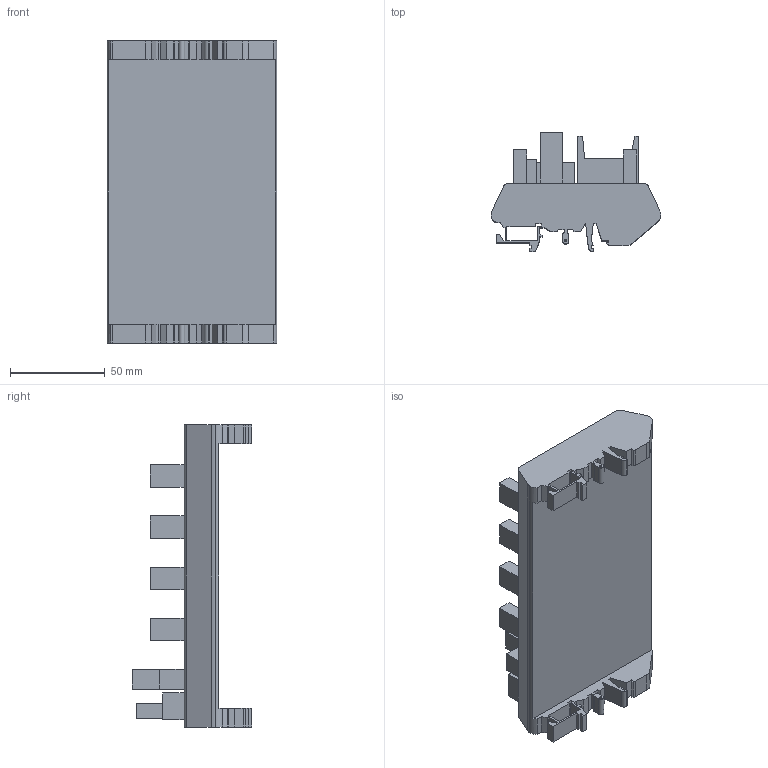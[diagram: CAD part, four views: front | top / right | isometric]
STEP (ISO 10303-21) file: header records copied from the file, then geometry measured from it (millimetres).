
FILE_DESCRIPTION (( 'STEP AP203' ), '1' );
FILE_NAME ('IntAIO.STEP', '2025-04-22T08:33:07', ( '' ), ( '' ), 'SwSTEP 2.0', 'SolidWorks 2021', '' );
FILE_SCHEMA (( 'CONFIG_CONTROL_DESIGN' ));
Length unit declared in the file: millimetre
Products named in the file (1): IntAIO
Bounding box: 89.47 x 63.03 x 159.5 mm (x, y, z)
Volume: 262827.2 mm3; surface area: 53013.7 mm2
Topology: 1 solids, 1 shells, 216 faces, 603 edges, 402 vertices
Faces by surface type: plane 195, cylinder 21
Entity records: 6926 total; most frequent: CARTESIAN_POINT 1222, ORIENTED_EDGE 1206, DIRECTION 1083, EDGE_CURVE 603, VECTOR 557, LINE 557, VERTEX_POINT 402, AXIS2_PLACEMENT_3D 263
